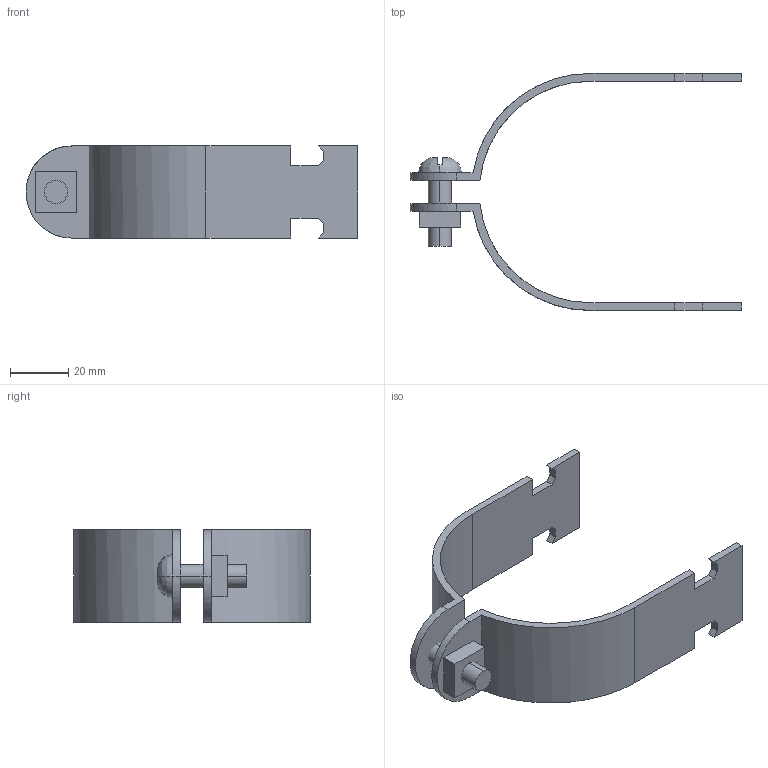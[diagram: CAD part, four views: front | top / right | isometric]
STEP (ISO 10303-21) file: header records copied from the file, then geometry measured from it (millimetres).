
FILE_DESCRIPTION(('TurboCAD Mac Pro'),'Build 980');
FILE_NAME('P2046.stp',' ',(''),(''),'ACIS Interop','IMSI','TurboCAD Mac Pro BY IMSI, INCORPORATED');
FILE_SCHEMA(('automotive_design'));
Length unit declared in the file: inch
Products named in the file (5): 1; 2; 3; 4; 5
Bounding box: 114.3 x 81.59 x 31.74 mm (x, y, z)
Volume: 23690.8 mm3; surface area: 19463.9 mm2
Topology: 4 solids, 4 shells, 75 faces, 194 edges, 128 vertices
Faces by surface type: plane 51, bspline 24
Entity records: 3579 total; most frequent: CARTESIAN_POINT 1122, ORIENTED_EDGE 388, DIRECTION 262, EDGE_CURVE 194, LINE 142, VECTOR 142, VERTEX_POINT 128, STYLED_ITEM 87
